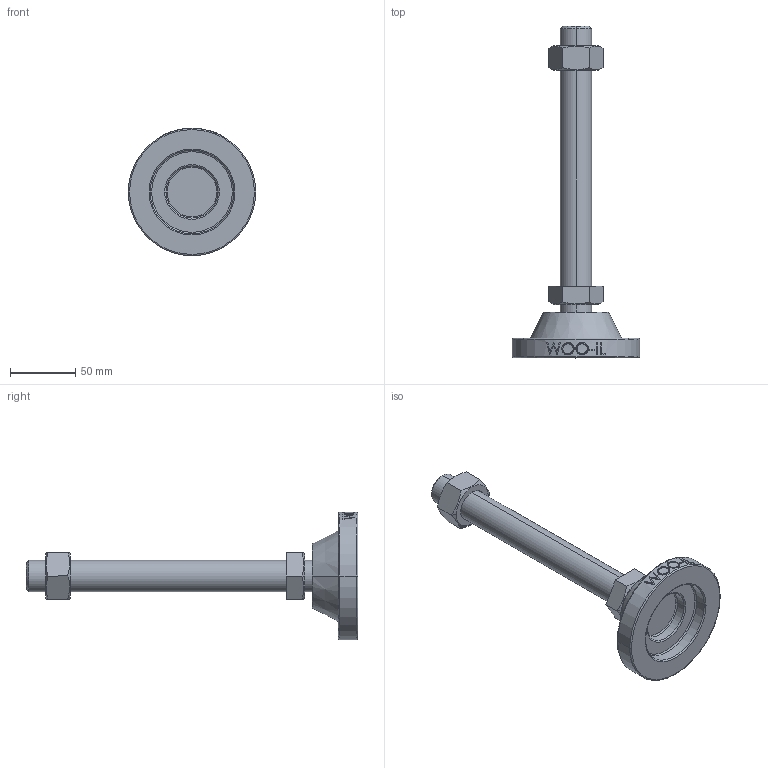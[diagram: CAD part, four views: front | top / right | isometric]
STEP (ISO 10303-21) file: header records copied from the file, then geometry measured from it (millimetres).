
FILE_DESCRIPTION (( 'STEP AP214' ), '1' );
FILE_NAME ('MFN98-M24-200.step', '2021-01-21T06:14:53', ( '' ), ( '' ), 'SwSTEP 2.0', 'SolidWorks 2019', '' );
FILE_SCHEMA (( 'AUTOMOTIVE_DESIGN' ));
Length unit declared in the file: millimetre
Products named in the file (2): MFN98-M24-200
Bounding box: 98 x 255 x 98 mm (x, y, z)
Volume: 248105.2 mm3; surface area: 47984.8 mm2
Topology: 2 solids, 2 shells, 111 faces, 255 edges, 162 vertices
Faces by surface type: plane 49, cylinder 20, bspline 16, cone 14, torus 12
Entity records: 4759 total; most frequent: CARTESIAN_POINT 2298, ORIENTED_EDGE 510, DIRECTION 471, EDGE_CURVE 255, AXIS2_PLACEMENT_3D 185, VERTEX_POINT 162, EDGE_LOOP 127, FACE_OUTER_BOUND 111
